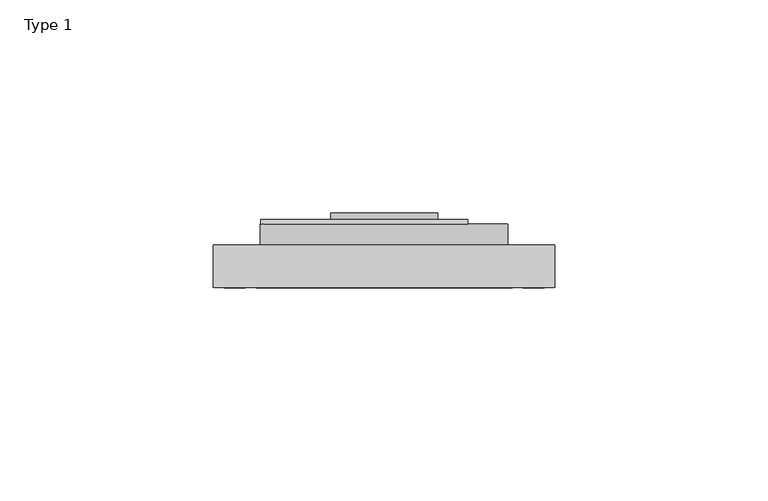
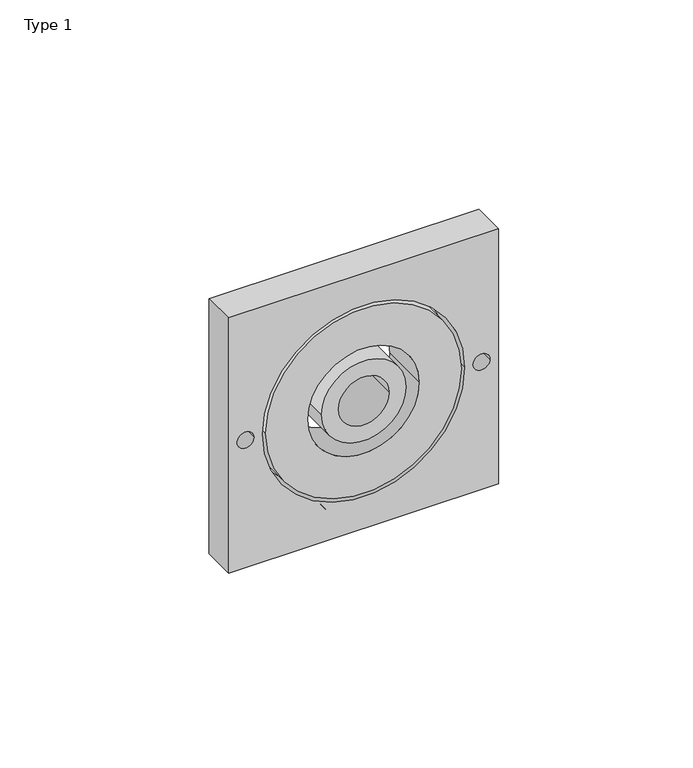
"""IFC4 building model written with IfcOpenShell, lengths in millimetres: proxy geometry, BIMHealth-Medical_Gas_Outlets-LOD2A-v1 : Type 1."""

from ifc_helpers import new_model, si_unit, point, frame, frame_2d, origin, place, context, project, spatial, polyline, circle_curve, trimmed, segment, composite_curve, outline, extrude, source, transform, mapped, element, save


def type_1_e4ce6e86(model_context):
    return source(origin(), model_context, "Body", "SweptSolid", [
        extrude(outline(polyline([(1136.6511743, 148.6914872), (1144.0357897, 148.6914872), (1144.0357897, 145.8735785), (1143.8185421, 144.4934703), (1143.1505733, 143.6785665), (1142.2058618, 143.3837948), (1141.3431815, 143.6316915), (1140.6896358, 144.38079), (1140.0009339, 143.4712347), (1138.8524964, 143.1530256), (1137.8600084, 143.3702732), (1137.1532776, 143.9084343), (1136.7782776, 144.7116194), (1136.6511743, 145.8952131), (1136.6511743, 148.6914872)]), holes=[polyline([(1141.0357897, 147.7684102), (1141.0357897, 146.0827131), (1141.1151166, 145.0983381), (1143.1127127, 146.2107179), (1143.1127127, 147.7684102), (1141.0357897, 147.7684102)]), polyline([(1137.5742512, 147.7684102), (1137.5742512, 145.8753814), (1140.1127127, 145.9655256), (1140.1127127, 147.7684102), (1137.5742512, 147.7684102)])]), frame((0.0, 105.0, 0.0), z_axis=(0.0, 1.0, 0.0), x_axis=(0.0, 0.0, 1.0)), (0.0, 0.0, 1.0), 1.0),
        extrude(outline(polyline([(140.8453333, 106.0), (141.7684102, 106.0), (141.7684102, 105.0), (140.8453333, 105.0), (140.8453333, 106.0)])), frame((0.0, 0.0, 1136.6511743), z_axis=(0.0, 0.0, 1.0), x_axis=(1.0, 0.0, 0.0)), (0.0, 0.0, 1.0), 7.3846154),
        extrude(outline(polyline([(1136.6511743, 138.9991795), (1144.0357897, 138.9991795), (1144.0357897, 137.4162468), (1138.8308618, 135.9018237), (1137.7437223, 135.5953333), (1138.921006, 135.2654054), (1144.0357897, 133.7798285), (1144.0357897, 132.1914872), (1136.6511743, 132.1914872), (1136.6511743, 133.1145641), (1143.1127127, 133.1145641), (1136.6511743, 134.9697323), (1136.6511743, 136.2191314), (1143.1127127, 138.0761025), (1136.6511743, 138.0761025), (1136.6511743, 138.9991795)])), frame((0.0, 105.0, 0.0), z_axis=(0.0, 1.0, 0.0), x_axis=(0.0, 0.0, 1.0)), (0.0, 0.0, 1.0), 1.0),
        extrude(outline(polyline([(1136.6511743, 130.5761025), (1144.0357897, 130.5761025), (1144.0357897, 129.6530256), (1141.0357897, 129.6530256), (1141.0357897, 125.7299487), (1144.0357897, 125.7299487), (1144.0357897, 124.8068718), (1136.6511743, 124.8068718), (1136.6511743, 125.7299487), (1140.1127127, 125.7299487), (1140.1127127, 129.6530256), (1136.6511743, 129.6530256), (1136.6511743, 130.5761025)])), frame((0.0, 105.0, 0.0), z_axis=(0.0, 1.0, 0.0), x_axis=(0.0, 0.0, 1.0)), (0.0, 0.0, 1.0), 1.0),
        extrude(outline(polyline([(1138.2665589, 119.5099968), (1138.1511743, 118.6049487), (1136.9594675, 119.451403), (1136.5357897, 121.0280256), (1137.2668594, 122.944492), (1139.3176406, 123.6530256), (1141.43603, 122.9372804), (1142.1896358, 121.0803093), (1141.4378329, 119.2765232), (1139.3230493, 118.5761025), (1139.0742512, 122.7299487), (1137.8753329, 122.1989992), (1137.4588666, 121.0099968), (1137.6517752, 120.1049487), (1138.2665589, 119.5099968)]), holes=[polyline([(1139.9973281, 122.7299487), (1139.9973281, 119.4991795), (1140.8338666, 119.8687708), (1141.2665589, 121.083915), (1140.9213065, 122.2206338), (1139.9973281, 122.7299487)])]), frame((0.0, 105.0, 0.0), z_axis=(0.0, 1.0, 0.0), x_axis=(0.0, 0.0, 1.0)), (0.0, 0.0, 1.0), 1.0),
        extrude(outline(polyline([(1136.9973281, 114.0761025), (1136.717881, 115.0866194), (1136.5357897, 116.0755016), (1136.9738906, 117.4159463), (1138.093482, 117.8837948), (1139.795405, 115.7978573), (1140.1127127, 114.1968958), (1141.2665589, 115.4661266), (1141.0889748, 116.4000208), (1140.5742512, 117.7684102), (1141.4756935, 117.3690713), (1142.0039387, 116.5649847), (1142.1896358, 115.3471362), (1142.0255733, 114.2284463), (1140.1794195, 113.2684102), (1139.030982, 113.2684102), (1137.4273161, 113.2215352), (1136.6511743, 113.037641), (1136.9973281, 114.0761025)]), holes=[polyline([(1138.7019555, 114.2672083), (1138.9065829, 115.6806698), (1138.7569435, 116.4748405), (1137.4588666, 115.8789872), (1137.6797199, 114.9450929), (1138.7019555, 114.2672083)])]), frame((0.0, 105.0, 0.0), z_axis=(0.0, 1.0, 0.0), x_axis=(0.0, 0.0, 1.0)), (0.0, 0.0, 1.0), 1.0),
        extrude(outline(polyline([(111.0761025, 106.0), (111.9991795, 106.0), (111.9991795, 105.0), (111.0761025, 105.0), (111.0761025, 106.0)])), frame((0.0, 0.0, 1136.6511743), z_axis=(0.0, 0.0, 1.0), x_axis=(1.0, 0.0, 0.0)), (0.0, 0.0, 1.0), 7.3846154),
        extrude(outline(polyline([(1137.7933017, 108.1914872), (1136.624131, 107.6145641), (1136.6890348, 109.0785064), (1138.1385541, 109.5761025), (1141.1511743, 109.5761025), (1142.0742512, 110.2684102), (1143.3921598, 109.5761025), (1143.9348281, 108.6530256), (1142.0742512, 108.6530256), (1142.0742512, 107.7299487), (1141.1511743, 107.7299487), (1141.1511743, 108.6530256), (1137.7933017, 108.1914872)])), frame((0.0, 105.0, 0.0), z_axis=(0.0, 1.0, 0.0), x_axis=(0.0, 0.0, 1.0)), (0.0, 0.0, 1.0), 1.0),
        extrude(outline(polyline([(1136.6511743, 106.8068718), (1144.0357897, 106.8068718), (1144.0357897, 105.8837948), (1141.3206454, 105.8837948), (1142.1896358, 104.2774247), (1141.9525565, 103.240766), (1141.2972079, 102.6115593), (1140.0838666, 102.4222564), (1136.6511743, 102.4222564), (1136.6511743, 103.3453333), (1139.9883137, 103.3453333), (1140.9618714, 103.6392035), (1141.2665589, 104.4721362), (1141.06103, 105.2284463), (1139.5321839, 105.8837948), (1136.6511743, 105.8837948), (1136.6511743, 106.8068718)])), frame((0.0, 105.0, 0.0), z_axis=(0.0, 1.0, 0.0), x_axis=(0.0, 0.0, 1.0)), (0.0, 0.0, 1.0), 1.0),
        extrude(outline(composite_curve([segment(trimmed(circle_curve(frame_2d((1175.0229233, 125.0)), 29.0), [point((1196.3519765, 144.6487021))], [point((1155.3742213, 103.6709469))], False, "CARTESIAN"), True, "CONTINUOUS"), segment(polyline([(1155.3742213, 103.6709469), (1164.2261274, 112.522853)]), True, "CONTINUOUS"), segment(trimmed(circle_curve(frame_2d((1175.0229233, 125.0)), 16.5), [point((1164.2261274, 112.522853))], [point((1187.5000703, 135.7967959))], True, "CARTESIAN"), True, "CONTINUOUS"), segment(polyline([(1187.5000703, 135.7967959), (1196.3519765, 144.6487021)]), True, "CONTINUOUS")], self_intersect=False)), frame((0.0, 110.0, 0.0), z_axis=(0.0, 1.0, 0.0), x_axis=(0.0, 0.0, 1.0)), (0.0, 0.0, 1.0), 1.0),
        extrude(outline(composite_curve([segment(trimmed(circle_curve(frame_2d((1175.0229233, 125.0625)), 12.5), [point((1175.0229233, 137.5625))], [point((1175.0229233, 112.5625))], False, "CARTESIAN"), True, "CONTINUOUS"), segment(trimmed(circle_curve(frame_2d((1175.0229233, 125.0625)), 12.5), [point((1175.0229233, 112.5625))], [point((1175.0229233, 137.5625))], False, "CARTESIAN"), True, "CONTINUOUS")], self_intersect=False), holes=[composite_curve([segment(trimmed(circle_curve(frame_2d((1175.0229233, 125.0625)), 7.5), [point((1175.0229233, 132.5625))], [point((1175.0229233, 117.5625))], True, "CARTESIAN"), True, "CONTINUOUS"), segment(trimmed(circle_curve(frame_2d((1175.0229233, 125.0625)), 7.5), [point((1175.0229233, 117.5625))], [point((1175.0229233, 132.5625))], True, "CARTESIAN"), True, "CONTINUOUS")], self_intersect=False)]), frame((0.0, 95.0, 0.0), z_axis=(0.0, 1.0, 0.0), x_axis=(0.0, 0.0, 1.0)), (0.0, 0.0, 1.0), 17.5),
        extrude(outline(composite_curve([segment(trimmed(circle_curve(frame_2d((1175.0229233, 125.0)), 29.0), [point((1175.0229233, 154.0))], [point((1175.0229233, 96.0))], False, "CARTESIAN"), True, "CONTINUOUS"), segment(trimmed(circle_curve(frame_2d((1175.0229233, 125.0)), 29.0), [point((1175.0229233, 96.0))], [point((1175.0229233, 154.0))], False, "CARTESIAN"), True, "CONTINUOUS")], self_intersect=False), holes=[composite_curve([segment(trimmed(circle_curve(frame_2d((1175.0229233, 125.0)), 16.5), [point((1175.0229233, 141.5))], [point((1175.0229233, 108.5))], True, "CARTESIAN"), True, "CONTINUOUS"), segment(trimmed(circle_curve(frame_2d((1175.0229233, 125.0)), 16.5), [point((1175.0229233, 108.5))], [point((1175.0229233, 141.5))], True, "CARTESIAN"), True, "CONTINUOUS")], self_intersect=False)]), frame((0.0, 95.0, 0.0), z_axis=(0.0, 1.0, 0.0), x_axis=(0.0, 0.0, 1.0)), (0.0, 0.0, 1.0), 15.0),
        extrude(outline(polyline([(1215.0229233, 85.0), (1135.0229233, 85.0), (1135.0229233, 165.0), (1215.0229233, 165.0), (1215.0229233, 85.0)]), holes=[composite_curve([segment(trimmed(circle_curve(frame_2d((1175.0229233, 125.0)), 30.0), [point((1175.0229233, 155.0))], [point((1175.0229233, 95.0))], True, "CARTESIAN"), True, "CONTINUOUS"), segment(trimmed(circle_curve(frame_2d((1175.0229233, 125.0)), 30.0), [point((1175.0229233, 95.0))], [point((1175.0229233, 155.0))], True, "CARTESIAN"), True, "CONTINUOUS")], self_intersect=False), composite_curve([segment(trimmed(circle_curve(frame_2d((1175.0229233, 90.0)), 2.5), [point((1175.0229233, 92.5))], [point((1175.0229233, 87.5))], True, "CARTESIAN"), True, "CONTINUOUS"), segment(trimmed(circle_curve(frame_2d((1175.0229233, 90.0)), 2.5), [point((1175.0229233, 87.5))], [point((1175.0229233, 92.5))], True, "CARTESIAN"), True, "CONTINUOUS")], self_intersect=False), composite_curve([segment(trimmed(circle_curve(frame_2d((1175.0229233, 160.0)), 2.5), [point((1175.0229233, 157.5))], [point((1175.0229233, 162.5))], True, "CARTESIAN"), True, "CONTINUOUS"), segment(trimmed(circle_curve(frame_2d((1175.0229233, 160.0)), 2.5), [point((1175.0229233, 162.5))], [point((1175.0229233, 157.5))], True, "CARTESIAN"), True, "CONTINUOUS")], self_intersect=False)]), frame((0.0, 95.0, 0.0), z_axis=(0.0, 1.0, 0.0), x_axis=(0.0, 0.0, 1.0)), (0.0, 0.0, 1.0), 10.0),
    ])


if __name__ == "__main__":
    model = new_model("IFC4")
    model_context = context("Model", 3, world=origin())
    ifc_project = project(units=[si_unit("LENGTHUNIT", "METRE", prefix="MILLI")], contexts=[model_context])
    site = spatial("IfcSite", under=ifc_project)
    building = spatial("IfcBuilding", under=site)
    placement = place(None, origin())
    type_1_shape = type_1_e4ce6e86(model_context)
    element("IfcBuildingElementProxy", 1, Name="BIMHealth-Medical_Gas_Outlets-LOD2A-v1 : Type 1", ObjectType="BIMHealth-Medical_Gas_Outlets-LOD2A-v1 : Type 1", at=placement, inside=building, context=model_context, shape_type="MappedRepresentation", body=[
        mapped(type_1_shape, transform((0.0, 0.0, 0.0), x_axis=(1.0, 0.0, 0.0), y_axis=(0.0, 1.0, 0.0), z_axis=(0.0, 0.0, 1.0))),
    ])
    save(model, "model.ifc")
